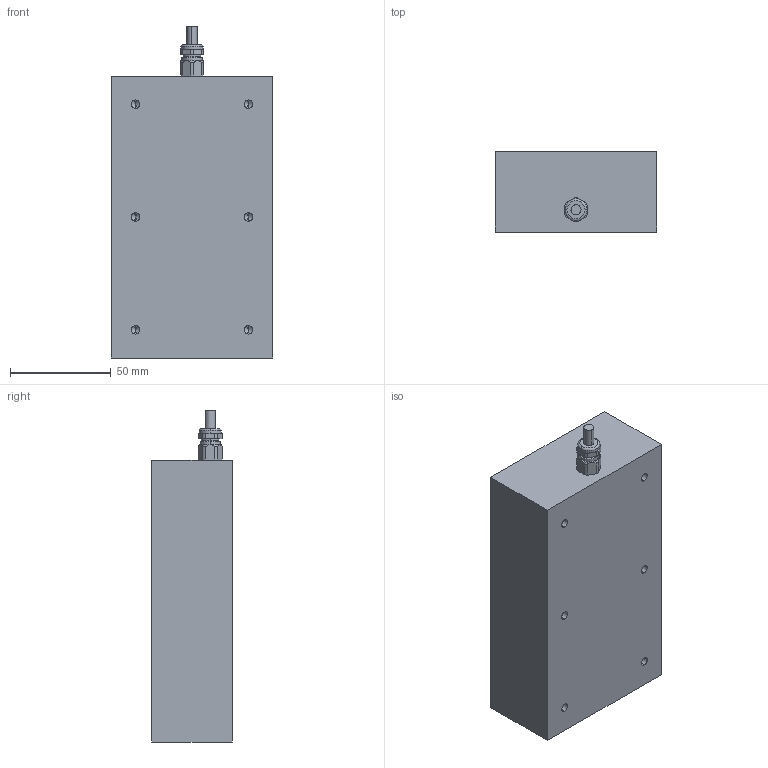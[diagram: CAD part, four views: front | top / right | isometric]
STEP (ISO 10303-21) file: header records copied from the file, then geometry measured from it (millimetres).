
FILE_DESCRIPTION (( 'STEP AP214' ), '1' );
FILE_NAME ('L1G001002-einfach.STEP', '2019-08-30T08:59:14', ( 'L&_P-CAD' ), ( 'Microsoft' ), 'SwSTEP 2.0', 'SolidWorks 2019', '' );
FILE_SCHEMA (( 'AUTOMOTIVE_DESIGN' ));
Length unit declared in the file: millimetre
Products named in the file (4): L1G001002-Gehäuse-einfach; L1G001002-einfach; Kabel ø5; SKINDICHT_MINI_M_8x1
Assembly tree (3 placements, depth 2):
  L1G001002-einfach
    L1G001002-Gehäuse-einfach
    Kabel ø5
    SKINDICHT_MINI_M_8x1
Bounding box: 80 x 40 x 164.83 mm (x, y, z)
Volume: 440275 mm3; surface area: 42767.8 mm2
Topology: 3 solids, 4 shells, 144 faces, 351 edges, 214 vertices
Faces by surface type: cylinder 59, plane 47, cone 30, torus 8
Entity records: 4550 total; most frequent: CARTESIAN_POINT 811, DIRECTION 763, ORIENTED_EDGE 678, EDGE_CURVE 339, AXIS2_PLACEMENT_3D 298, VERTEX_POINT 214, VECTOR 167, LINE 167
